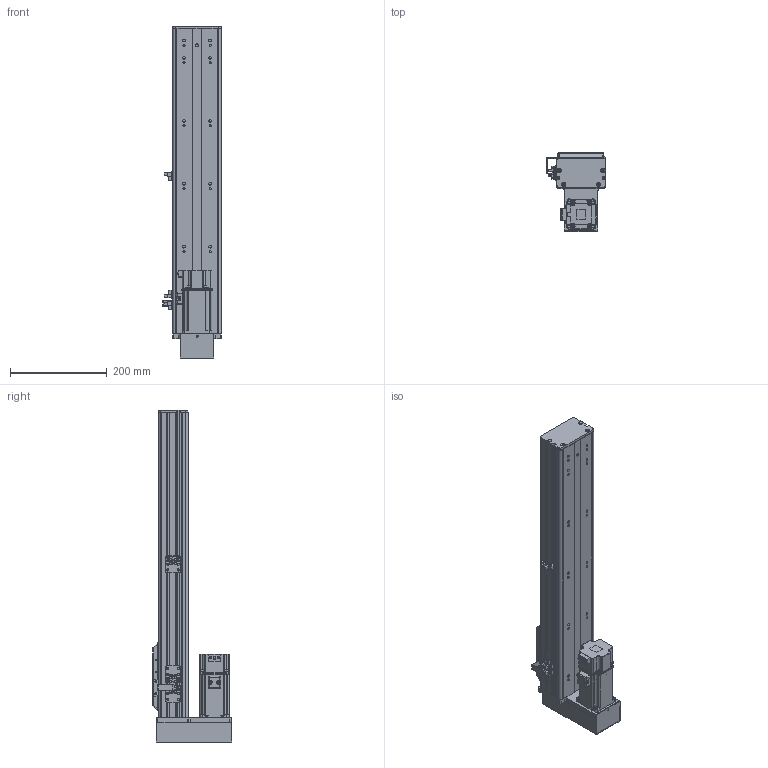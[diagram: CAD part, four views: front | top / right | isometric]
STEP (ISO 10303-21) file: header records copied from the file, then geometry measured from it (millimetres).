
FILE_DESCRIPTION (( 'STEP AP203' ), '1' );
FILE_NAME ('BOSW100-450-1610-1P-DM-M400W-O-S3（方程式2016）.step', '2020-10-10T06:43:00', ( '' ), ( '' ), 'SwSTEP 2.0', 'SolidWorks 2016', '' );
FILE_SCHEMA (( 'CONFIG_CONTROL_DESIGN' ));
Length unit declared in the file: millimetre
Products named in the file (14): 俋境嫖覜嘐隅啣; BOSW-100-1P-DM-450諦誧芞; BOSW-100-1P-DM-宽轨-钢带-450客户图纸; BOSW&TW-100-1P-賑雄釱欶; BOSW-100-1P-DM-宽轨-侧板-450客户图纸; BOSW&TW-100-俋离覜茼え; BOS100-DM鎮湛欶; BOSW-100-綴裔啣; 新结构AIMSW-100-1P-宽&高轨共用-滑动座上组件; BOS-100-DM鎮湛假蚾啣; S400W(SMA-L040); BOSW100-450-1610-1P-DM-M400W-O-S3（方程式2016）; BOSW&TW-100-詩湍揤沭(陔賦凳); 放大器内置U型微型光电传感器PM-L65
Assembly tree (19 placements, depth 2):
  BOSW100-450-1610-1P-DM-M400W-O-S3（方程式2016）
    BOSW-100-1P-DM-450諦誧芞
    BOSW-100-綴裔啣
    新结构AIMSW-100-1P-宽&高轨共用-滑动座上组件
    S400W(SMA-L040)
    BOSW&TW-100-詩湍揤沭(陔賦凳)  x2
    BOSW&TW-100-1P-賑雄釱欶
    BOSW&TW-100-俋离覜茼え
    俋境嫖覜嘐隅啣  x3
    放大器内置U型微型光电传感器PM-L65  x3
    BOSW-100-1P-DM-宽轨-侧板-450客户图纸  x2
    BOSW-100-1P-DM-宽轨-钢带-450客户图纸
    BOS100-DM鎮湛欶
    BOS-100-DM鎮湛假蚾啣
Bounding box: 120.9 x 164 x 686 mm (x, y, z)
Volume: 1621260.4 mm3; surface area: 775155.2 mm2
Topology: 19 solids, 19 shells, 2540 faces, 6698 edges, 4281 vertices
Faces by surface type: plane 1265, cylinder 799, bspline 271, cone 157, torus 36, sphere 12
Entity records: 69739 total; most frequent: CARTESIAN_POINT 20872, ORIENTED_EDGE 9952, DIRECTION 9628, EDGE_CURVE 4976, AXIS2_PLACEMENT_3D 3400, VERTEX_POINT 3183, LINE 2828, VECTOR 2828
